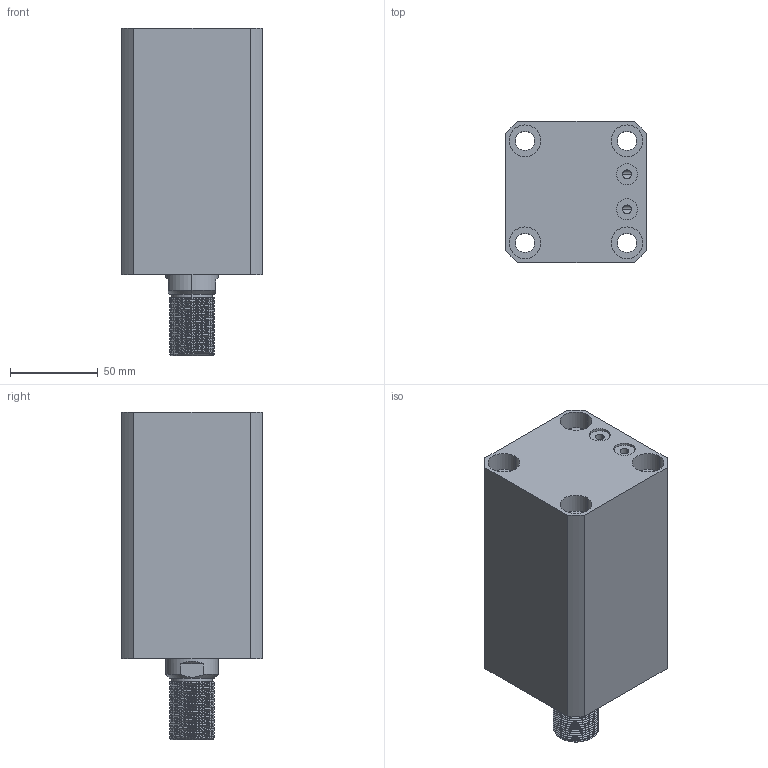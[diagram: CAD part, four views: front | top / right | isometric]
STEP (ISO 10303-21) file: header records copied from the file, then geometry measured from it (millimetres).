
FILE_DESCRIPTION (( 'STEP AP203' ), '1' );
FILE_NAME ('CHTB-SDMB50-80W.STEP', '2018-05-19T06:53:07', ( '' ), ( '' ), 'SwSTEP 2.0', 'SolidWorks 2015', '' );
FILE_SCHEMA (( 'CONFIG_CONTROL_DESIGN' ));
Length unit declared in the file: millimetre
Products named in the file (5): 掛极SDMB50-80W; CHTM-SDMA50QG; M6; 活塞杆SDMB50-80W; CHTB-SDMB50-80W
Assembly tree (5 placements, depth 2):
  CHTB-SDMB50-80W
    掛极SDMB50-80W
    活塞杆SDMB50-80W
    CHTM-SDMA50QG
    M6  x2
Bounding box: 80 x 80 x 186 mm (x, y, z)
Volume: 746056.3 mm3; surface area: 136909.2 mm2
Topology: 5 solids, 5 shells, 305 faces, 821 edges, 547 vertices
Faces by surface type: cylinder 175, plane 57, cone 29, bspline 28, torus 16
Entity records: 17763 total; most frequent: CARTESIAN_POINT 11022, ORIENTED_EDGE 1448, DIRECTION 1131, EDGE_CURVE 724, VERTEX_POINT 486, AXIS2_PLACEMENT_3D 455, EDGE_LOOP 312, FACE_OUTER_BOUND 270
